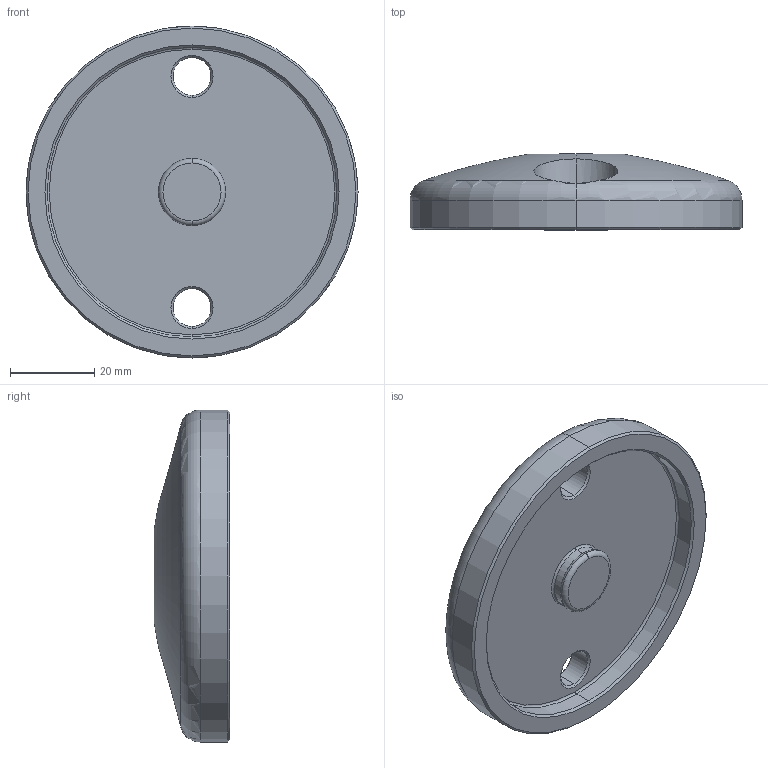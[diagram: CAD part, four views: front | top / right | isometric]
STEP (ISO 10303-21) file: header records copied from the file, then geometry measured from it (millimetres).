
FILE_DESCRIPTION(('STEP AP214'),'1');
FILE_NAME('C:/Program Files (x86)/Trace Software/PartsXML Tools/RobotPartsAuto/FATH/CAD/Temp/FATH_098D080EB.stp','2016-05-23T10:41:27',('TraceParts'),('TraceParts S.A.'),'Spatial InterOp 3D',' ',' ');
FILE_SCHEMA(('automotive_design'));
Length unit declared in the file: millimetre
Products named in the file (1): F3-0,5
Bounding box: 79 x 18 x 79 mm (x, y, z)
Volume: 46819.6 mm3; surface area: 14290.1 mm2
Topology: 1 solids, 1 shells, 55 faces, 114 edges, 65 vertices
Faces by surface type: cylinder 18, torus 14, cone 14, plane 7, sphere 2
Entity records: 2121 total; most frequent: CARTESIAN_POINT 439, DIRECTION 294, ORIENTED_EDGE 228, AXIS2_PLACEMENT_3D 132, EDGE_CURVE 114, CIRCLE 76, VERTEX_POINT 65, EDGE_LOOP 63
